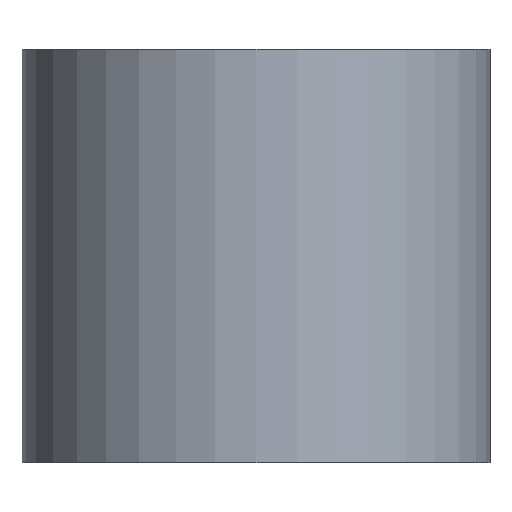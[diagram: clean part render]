
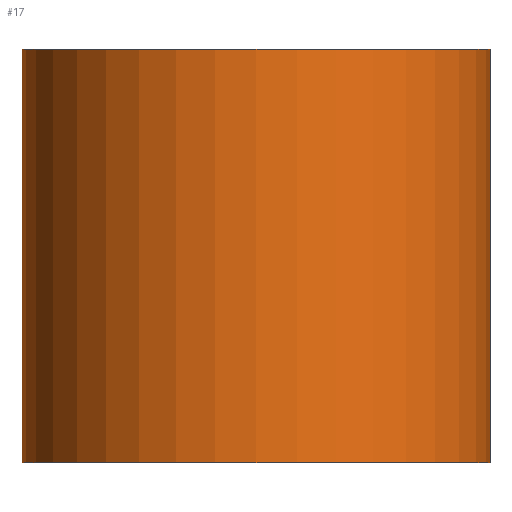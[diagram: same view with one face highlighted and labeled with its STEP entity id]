
A CAD part, front view. The second image highlights one B-rep face of the part: STEP entity #17.
In plain terms, the highlighted cylindrical face has radius 48.1 mm (diameter 96.2 mm), a full revolution.
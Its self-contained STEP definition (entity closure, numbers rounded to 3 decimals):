
#17 = ADVANCED_FACE('',(#18),#45,.T.);
#18 = FACE_BOUND('',#19,.T.);
#19 = EDGE_LOOP('',(#20,#29,#37,#44));
#20 = ORIENTED_EDGE('',*,*,#21,.F.);
#21 = EDGE_CURVE('',#22,#22,#24,.T.);
#22 = VERTEX_POINT('',#23);
#23 = CARTESIAN_POINT('',(48.1,0.,100.));
#24 = CIRCLE('',#25,48.1);
#25 = AXIS2_PLACEMENT_3D('',#26,#27,#28);
#26 = CARTESIAN_POINT('',(0.,0.,100.));
#27 = DIRECTION('',(0.,0.,1.));
#28 = DIRECTION('',(1.,0.,-0.));
#29 = ORIENTED_EDGE('',*,*,#30,.F.);
#30 = EDGE_CURVE('',#31,#22,#33,.T.);
#31 = VERTEX_POINT('',#32);
#32 = CARTESIAN_POINT('',(48.1,0.,15.));
#33 = LINE('',#34,#35);
#34 = CARTESIAN_POINT('',(48.1,0.,15.));
#35 = VECTOR('',#36,1.);
#36 = DIRECTION('',(0.,0.,1.));
#37 = ORIENTED_EDGE('',*,*,#38,.T.);
#38 = EDGE_CURVE('',#31,#31,#39,.T.);
#39 = CIRCLE('',#40,48.1);
#40 = AXIS2_PLACEMENT_3D('',#41,#42,#43);
#41 = CARTESIAN_POINT('',(0.,0.,15.));
#42 = DIRECTION('',(0.,0.,1.));
#43 = DIRECTION('',(1.,0.,-0.));
#44 = ORIENTED_EDGE('',*,*,#30,.T.);
#45 = CYLINDRICAL_SURFACE('',#46,48.1);
#46 = AXIS2_PLACEMENT_3D('',#47,#48,#49);
#47 = CARTESIAN_POINT('',(0.,0.,15.));
#48 = DIRECTION('',(0.,0.,1.));
#49 = DIRECTION('',(1.,0.,-0.));
